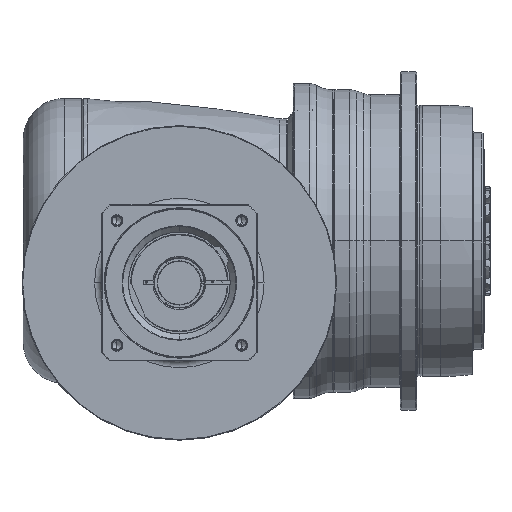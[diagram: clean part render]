
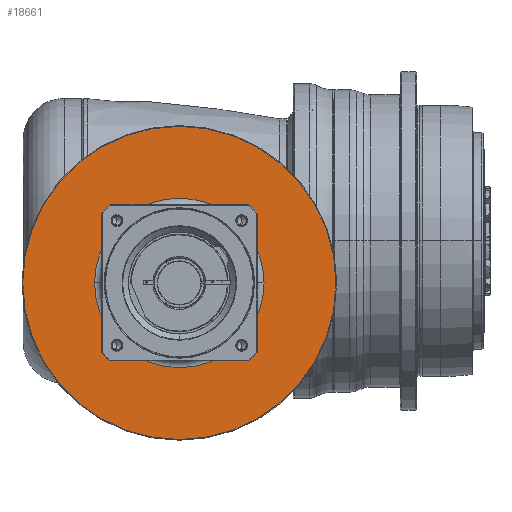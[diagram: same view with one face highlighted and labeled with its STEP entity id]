
A CAD part, front view. The second image highlights one B-rep face of the part: STEP entity #18661.
In plain terms, the highlighted planar face has unit normal (0, -1, 0) as drawn and (1, 0, 0) by its records, which use the part's own axes.
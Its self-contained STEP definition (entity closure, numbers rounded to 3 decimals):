
#18140=CARTESIAN_POINT('',(-7.5,0.,0.));
#18141=DIRECTION('',(-1.,0.,0.));
#18142=DIRECTION('',(0.,-1.,0.));
#18143=AXIS2_PLACEMENT_3D('',#18140,#18141,#18142);
#18145=CARTESIAN_POINT('',(-7.5,0.,0.));
#18146=DIRECTION('',(-1.,0.,0.));
#18147=DIRECTION('',(0.,1.,0.));
#18148=AXIS2_PLACEMENT_3D('',#18145,#18146,#18147);
#18150=CARTESIAN_POINT('',(-7.5,0.,0.));
#18151=DIRECTION('',(-1.,0.,0.));
#18152=DIRECTION('',(0.,-1.,0.));
#18153=AXIS2_PLACEMENT_3D('',#18150,#18151,#18152);
#18155=CARTESIAN_POINT('',(-7.5,0.,0.));
#18156=DIRECTION('',(-1.,0.,0.));
#18157=DIRECTION('',(0.,1.,0.));
#18158=AXIS2_PLACEMENT_3D('',#18155,#18156,#18157);
#18224=CARTESIAN_POINT('',(-7.5,-115.5,0.));
#18225=CARTESIAN_POINT('',(-7.5,115.5,0.));
#18226=VERTEX_POINT('',#18224);
#18227=VERTEX_POINT('',#18225);
#18248=CARTESIAN_POINT('',(-7.5,-62.5,0.));
#18249=CARTESIAN_POINT('',(-7.5,62.5,0.));
#18250=VERTEX_POINT('',#18248);
#18251=VERTEX_POINT('',#18249);
#18646=CARTESIAN_POINT('',(-7.5,0.,0.));
#18647=DIRECTION('',(1.,0.,0.));
#18648=DIRECTION('',(0.,-1.,0.));
#18649=AXIS2_PLACEMENT_3D('',#18646,#18647,#18648);
#18650=PLANE('',#18649);
#18651=ORIENTED_EDGE('',*,*,#18587,.T.);
#18652=ORIENTED_EDGE('',*,*,#18602,.T.);
#18653=EDGE_LOOP('',(#18651,#18652));
#18654=FACE_OUTER_BOUND('',#18653,.F.);
#18656=ORIENTED_EDGE('',*,*,#18655,.F.);
#18658=ORIENTED_EDGE('',*,*,#18657,.F.);
#18659=EDGE_LOOP('',(#18656,#18658));
#18660=FACE_BOUND('',#18659,.F.);
#18661=ADVANCED_FACE('',(#18654,#18660),#18650,.T.);
#18144=CIRCLE('',#18143,62.5);
#18149=CIRCLE('',#18148,62.5);
#18154=CIRCLE('',#18153,115.5);
#18159=CIRCLE('',#18158,115.5);
#18587=EDGE_CURVE('',#18226,#18227,#18154,.T.);
#18602=EDGE_CURVE('',#18227,#18226,#18159,.T.);
#18655=EDGE_CURVE('',#18250,#18251,#18144,.T.);
#18657=EDGE_CURVE('',#18251,#18250,#18149,.T.);
